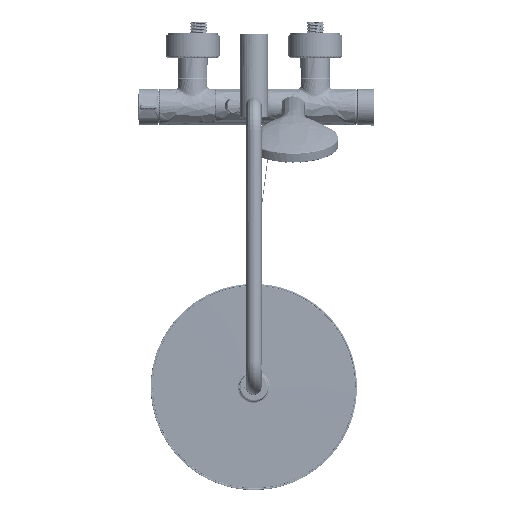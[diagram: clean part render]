
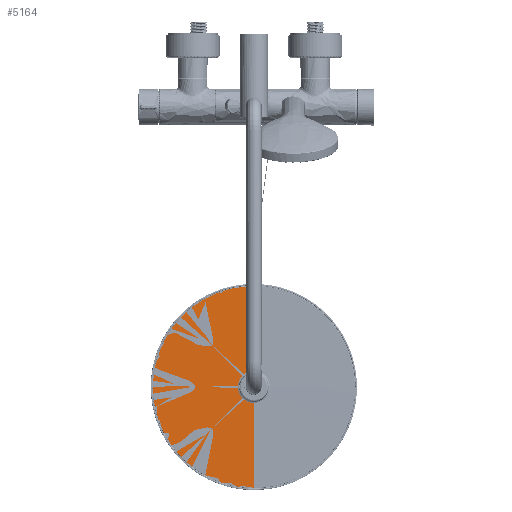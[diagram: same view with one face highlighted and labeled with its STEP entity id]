
A CAD part, top view. The second image highlights one B-rep face of the part: STEP entity #5164.
In plain terms, the highlighted free-form (B-spline) face has degree [1, 2] with [2, 9] control points.
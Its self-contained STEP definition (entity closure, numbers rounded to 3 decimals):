
#5164=ADVANCED_FACE('',(#13952),#159698,.T.);
#13952=FACE_OUTER_BOUND('',#23827,.T.);
#23827=EDGE_LOOP('',(#43161,#43162,#43163,#43164,#43165,#43166));
#43161=ORIENTED_EDGE('',*,*,#88749,.T.);
#43162=ORIENTED_EDGE('',*,*,#88751,.F.);
#43163=ORIENTED_EDGE('',*,*,#88752,.F.);
#43164=ORIENTED_EDGE('',*,*,#88753,.F.);
#43165=ORIENTED_EDGE('',*,*,#88754,.F.);
#43166=ORIENTED_EDGE('',*,*,#88750,.T.);
#88749=EDGE_CURVE('',#142489,#142488,#112206,.T.);
#88750=EDGE_CURVE('',#142486,#142489,#112207,.T.);
#88751=EDGE_CURVE('',#142490,#142488,#120217,.T.);
#88752=EDGE_CURVE('',#142491,#142490,#112208,.T.);
#88753=EDGE_CURVE('',#142492,#142491,#112209,.T.);
#88754=EDGE_CURVE('',#142486,#142492,#120218,.T.);
#112206=(
BOUNDED_CURVE()
B_SPLINE_CURVE(2,(#263228,#263229,#263230),.UNSPECIFIED.,.F.,.F.)
B_SPLINE_CURVE_WITH_KNOTS((3,3),(-0.517,0.),.UNSPECIFIED.)
CURVE()
GEOMETRIC_REPRESENTATION_ITEM()
RATIONAL_B_SPLINE_CURVE((1.,1.,1.))
REPRESENTATION_ITEM('')
);
#112207=(
BOUNDED_CURVE()
B_SPLINE_CURVE(2,(#263231,#263232,#263233,#263234,#263235),
 .UNSPECIFIED.,.F.,.F.)
B_SPLINE_CURVE_WITH_KNOTS((3,2,3),(-387.011,-193.506,0.),
 .UNSPECIFIED.)
CURVE()
GEOMETRIC_REPRESENTATION_ITEM()
RATIONAL_B_SPLINE_CURVE((1.,0.708,1.,0.708,1.))
REPRESENTATION_ITEM('')
);
#112208=(
BOUNDED_CURVE()
B_SPLINE_CURVE(2,(#263238,#263239,#263240,#263241,#263242),
 .UNSPECIFIED.,.F.,.F.)
B_SPLINE_CURVE_WITH_KNOTS((3,2,3),(0.,30.527,61.054),
 .UNSPECIFIED.)
CURVE()
GEOMETRIC_REPRESENTATION_ITEM()
RATIONAL_B_SPLINE_CURVE((1.,0.709,1.,0.709,1.))
REPRESENTATION_ITEM('')
);
#112209=(
BOUNDED_CURVE()
B_SPLINE_CURVE(2,(#263243,#263244,#263245),.UNSPECIFIED.,.F.,.F.)
B_SPLINE_CURVE_WITH_KNOTS((3,3),(0.,0.156),.UNSPECIFIED.)
CURVE()
GEOMETRIC_REPRESENTATION_ITEM()
RATIONAL_B_SPLINE_CURVE((1.,1.,1.))
REPRESENTATION_ITEM('')
);
#120217=B_SPLINE_CURVE_WITH_KNOTS('',1,(#263236,#263237),.UNSPECIFIED.,
 .F.,.F.,(2,2),(-103.874,0.),.UNSPECIFIED.);
#120218=B_SPLINE_CURVE_WITH_KNOTS('',1,(#263246,#263247),.UNSPECIFIED.,
 .F.,.F.,(2,2),(0.,103.874),.UNSPECIFIED.);
#142486=VERTEX_POINT('',#259601);
#142488=VERTEX_POINT('',#259603);
#142489=VERTEX_POINT('',#259604);
#142490=VERTEX_POINT('',#259605);
#142491=VERTEX_POINT('',#259606);
#142492=VERTEX_POINT('',#259607);
#159698=(
BOUNDED_SURFACE()
B_SPLINE_SURFACE(1,2,((#252665,#252666,#252667,#252668,#252669,#252670,
#252671,#252672,#252673),(#252674,#252675,#252676,#252677,#252678,#252679,
#252680,#252681,#252682)),.UNSPECIFIED.,.F.,.F.,.F.)
B_SPLINE_SURFACE_WITH_KNOTS((2,2),(3,2,2,2,3),(0.,153.261),(0.,
240.733,481.467,722.2,962.933),
 .UNSPECIFIED.)
GEOMETRIC_REPRESENTATION_ITEM()
RATIONAL_B_SPLINE_SURFACE(((1.,0.707,1.,0.707,1.,
0.707,1.,0.707,1.),(1.,0.707,1.,0.707,
1.,0.707,1.,0.707,1.)))
REPRESENTATION_ITEM('')
SURFACE()
);
#252665=CARTESIAN_POINT('',(-1.884,-161.077,703.115));
#252666=CARTESIAN_POINT('',(-1.884,-161.077,703.115));
#252667=CARTESIAN_POINT('',(-1.884,-161.077,703.115));
#252668=CARTESIAN_POINT('',(-1.884,-161.077,703.115));
#252669=CARTESIAN_POINT('',(-1.884,-161.077,703.115));
#252670=CARTESIAN_POINT('',(-1.884,-161.077,703.115));
#252671=CARTESIAN_POINT('',(-1.884,-161.077,703.115));
#252672=CARTESIAN_POINT('',(-1.884,-161.077,703.115));
#252673=CARTESIAN_POINT('',(-1.884,-161.077,703.115));
#252674=CARTESIAN_POINT('',(151.371,-161.077,701.877));
#252675=CARTESIAN_POINT('',(151.371,-314.333,701.877));
#252676=CARTESIAN_POINT('',(-1.884,-314.333,701.877));
#252677=CARTESIAN_POINT('',(-155.14,-314.333,701.877));
#252678=CARTESIAN_POINT('',(-155.14,-161.077,701.877));
#252679=CARTESIAN_POINT('',(-155.14,-7.822,701.877));
#252680=CARTESIAN_POINT('',(-1.884,-7.822,701.877));
#252681=CARTESIAN_POINT('',(151.371,-7.822,701.877));
#252682=CARTESIAN_POINT('',(151.371,-161.077,701.877));
#259601=CARTESIAN_POINT('',(-1.884,-284.431,702.119));
#259603=CARTESIAN_POINT('',(-1.884,-37.723,702.119));
#259604=CARTESIAN_POINT('',(-2.401,-37.724,702.119));
#259605=CARTESIAN_POINT('',(-1.884,-141.594,702.957));
#259606=CARTESIAN_POINT('',(-2.04,-180.561,702.957));
#259607=CARTESIAN_POINT('',(-1.884,-180.561,702.957));
#263228=CARTESIAN_POINT('',(-2.401,-37.724,702.119));
#263229=CARTESIAN_POINT('',(-2.143,-37.723,702.119));
#263230=CARTESIAN_POINT('',(-1.884,-37.723,702.119));
#263231=CARTESIAN_POINT('',(-1.884,-284.431,702.119));
#263232=CARTESIAN_POINT('',(-124.98,-284.431,702.119));
#263233=CARTESIAN_POINT('',(-125.238,-161.336,702.119));
#263234=CARTESIAN_POINT('',(-125.496,-38.24,702.119));
#263235=CARTESIAN_POINT('',(-2.401,-37.724,702.119));
#263236=CARTESIAN_POINT('',(-1.884,-141.594,702.957));
#263237=CARTESIAN_POINT('',(-1.884,-37.723,702.119));
#263238=CARTESIAN_POINT('',(-2.04,-180.561,702.957));
#263239=CARTESIAN_POINT('',(-21.446,-180.405,702.957));
#263240=CARTESIAN_POINT('',(-21.368,-160.999,702.957));
#263241=CARTESIAN_POINT('',(-21.29,-141.594,702.957));
#263242=CARTESIAN_POINT('',(-1.884,-141.594,702.957));
#263243=CARTESIAN_POINT('',(-1.884,-180.561,702.957));
#263244=CARTESIAN_POINT('',(-1.962,-180.561,702.957));
#263245=CARTESIAN_POINT('',(-2.04,-180.561,702.957));
#263246=CARTESIAN_POINT('',(-1.884,-284.431,702.119));
#263247=CARTESIAN_POINT('',(-1.884,-180.561,702.957));
